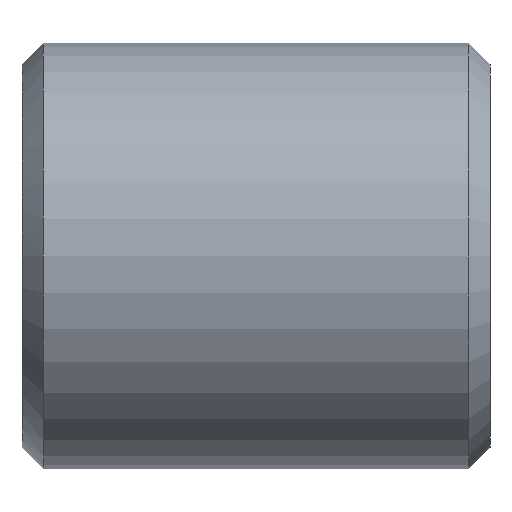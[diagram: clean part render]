
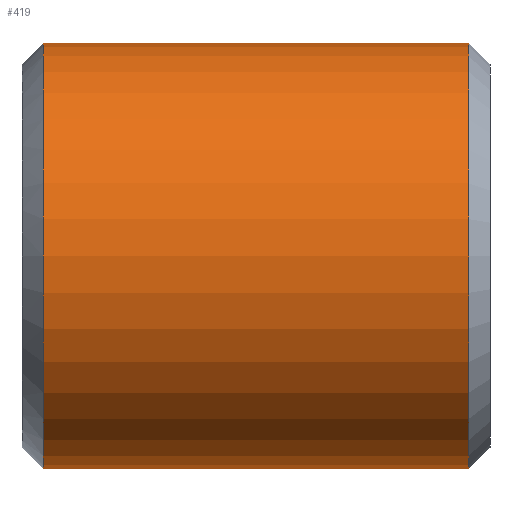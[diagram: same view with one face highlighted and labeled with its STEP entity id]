
A CAD part, front view. The second image highlights one B-rep face of the part: STEP entity #419.
In plain terms, the highlighted cylindrical face has radius 10 mm (diameter 20 mm), a partial arc.
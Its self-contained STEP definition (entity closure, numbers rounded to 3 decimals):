
#231=CARTESIAN_POINT('Vertex',(1.,0.,-10.)) ;
#238=CARTESIAN_POINT('Vertex',(1.,0.,10.)) ;
#267=CARTESIAN_POINT('Axis2P3D Location',(1.,0.,0.)) ;
#271=CARTESIAN_POINT('Vertex',(1.,-10.,0.)) ;
#274=CARTESIAN_POINT('Axis2P3D Location',(1.,0.,0.)) ;
#359=CARTESIAN_POINT('Line Origine',(22.,0.,10.)) ;
#363=CARTESIAN_POINT('Vertex',(21.,0.,10.)) ;
#377=CARTESIAN_POINT('Vertex',(21.,0.,-10.)) ;
#380=CARTESIAN_POINT('Line Origine',(22.,0.,-10.)) ;
#394=CARTESIAN_POINT('Axis2P3D Location',(22.,0.,0.)) ;
#399=CARTESIAN_POINT('Axis2P3D Location',(21.,0.,0.)) ;
#403=CARTESIAN_POINT('Vertex',(21.,-10.,0.)) ;
#406=CARTESIAN_POINT('Axis2P3D Location',(21.,0.,0.)) ;
#268=DIRECTION('Axis2P3D Direction',(1.,0.,-0.)) ;
#275=DIRECTION('Axis2P3D Direction',(1.,0.,-0.)) ;
#360=DIRECTION('Vector Direction',(-1.,0.,0.)) ;
#381=DIRECTION('Vector Direction',(-1.,0.,0.)) ;
#395=DIRECTION('Axis2P3D Direction',(-1.,-0.,-0.)) ;
#396=DIRECTION('Axis2P3D XDirection',(0.,0.,-1.)) ;
#400=DIRECTION('Axis2P3D Direction',(-1.,-0.,-0.)) ;
#407=DIRECTION('Axis2P3D Direction',(-1.,-0.,-0.)) ;
#269=AXIS2_PLACEMENT_3D('Circle Axis2P3D',#267,#268,$) ;
#276=AXIS2_PLACEMENT_3D('Circle Axis2P3D',#274,#275,$) ;
#397=AXIS2_PLACEMENT_3D('Cylinder Axis2P3D',#394,#395,#396) ;
#401=AXIS2_PLACEMENT_3D('Circle Axis2P3D',#399,#400,$) ;
#408=AXIS2_PLACEMENT_3D('Circle Axis2P3D',#406,#407,$) ;
#412=ORIENTED_EDGE('',*,*,#384,.T.) ;
#413=ORIENTED_EDGE('',*,*,#405,.F.) ;
#414=ORIENTED_EDGE('',*,*,#410,.F.) ;
#415=ORIENTED_EDGE('',*,*,#365,.T.) ;
#416=ORIENTED_EDGE('',*,*,#278,.T.) ;
#417=ORIENTED_EDGE('',*,*,#273,.T.) ;
#361=VECTOR('Line Direction',#360,1.) ;
#382=VECTOR('Line Direction',#381,1.) ;
#419=ADVANCED_FACE('352-14X22',(#418),#398,.T.) ;
#270=CIRCLE('generated circle',#269,10.) ;
#277=CIRCLE('generated circle',#276,10.) ;
#402=CIRCLE('generated circle',#401,10.) ;
#409=CIRCLE('generated circle',#408,10.) ;
#398=CYLINDRICAL_SURFACE('generated cylinder',#397,10.) ;
#273=EDGE_CURVE('',#272,#232,#270,.T.) ;
#278=EDGE_CURVE('',#239,#272,#277,.T.) ;
#365=EDGE_CURVE('',#364,#239,#362,.T.) ;
#384=EDGE_CURVE('',#232,#378,#383,.F.) ;
#405=EDGE_CURVE('',#404,#378,#402,.F.) ;
#410=EDGE_CURVE('',#364,#404,#409,.F.) ;
#411=EDGE_LOOP('',(#412,#413,#414,#415,#416,#417)) ;
#418=FACE_OUTER_BOUND('',#411,.T.) ;
#362=LINE('Line',#359,#361) ;
#383=LINE('Line',#380,#382) ;
#232=VERTEX_POINT('',#231) ;
#239=VERTEX_POINT('',#238) ;
#272=VERTEX_POINT('',#271) ;
#364=VERTEX_POINT('',#363) ;
#378=VERTEX_POINT('',#377) ;
#404=VERTEX_POINT('',#403) ;
